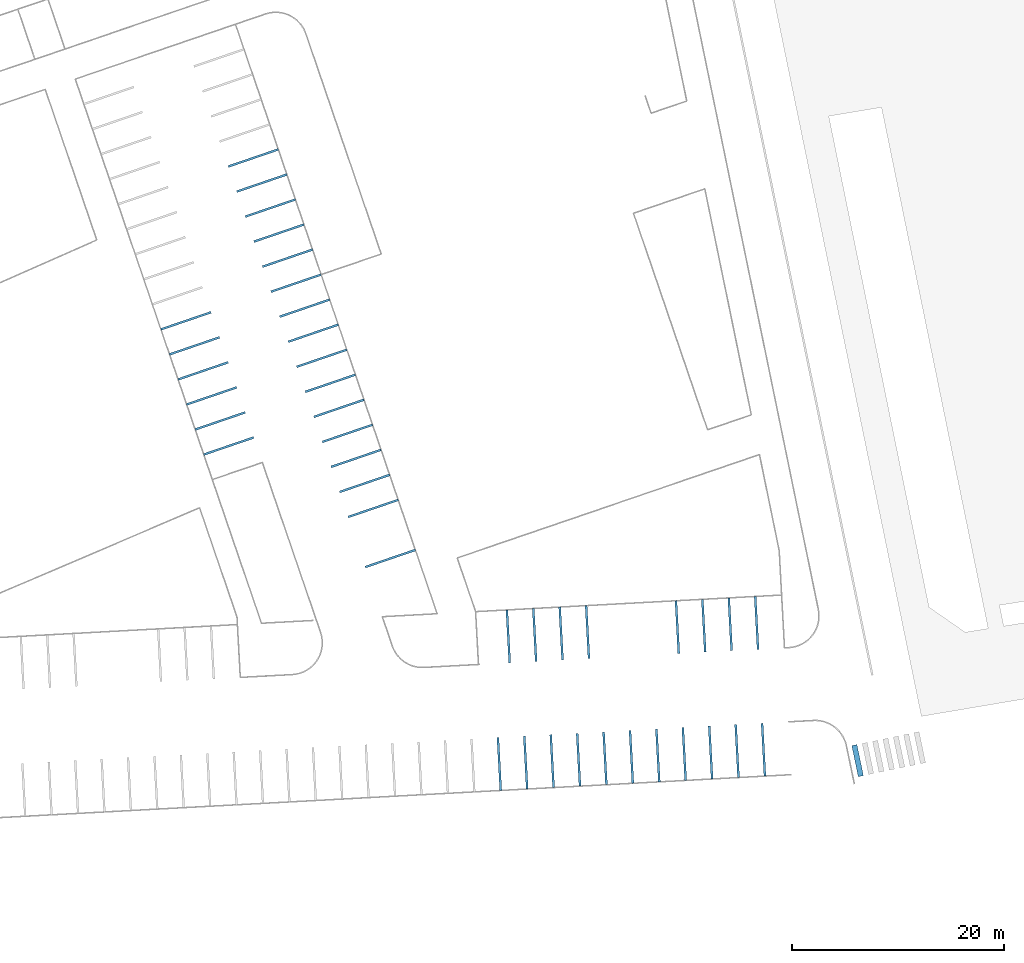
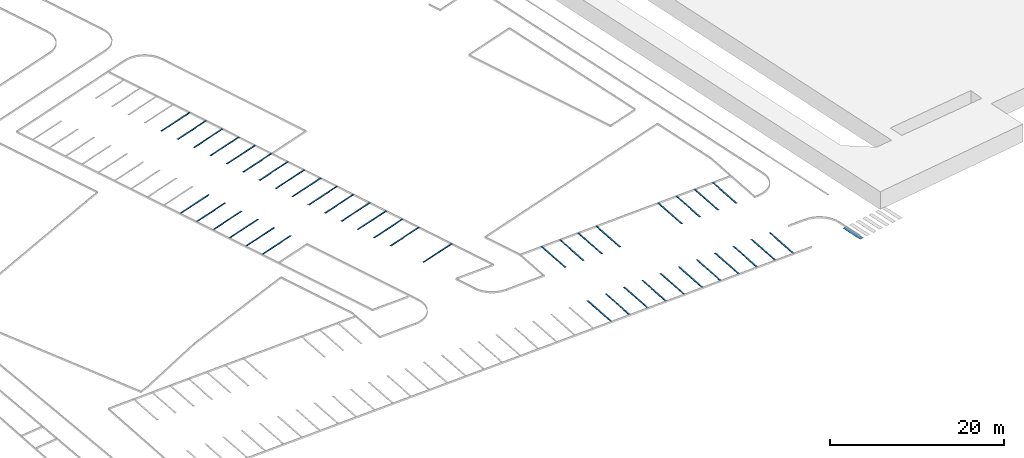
# One storey, part 78 of 112: 42 walls.
"""IFC2X3 building model written with IfcOpenShell, lengths in millimetres."""

from ifc_helpers import new_model, entity, si_unit, converted_unit, derived_unit, direction, frame, frame_2d, origin, origin_2d_with_axis, place, context, subcontext, project, spatial, rectangle, extrude, material, type_object, element, save


model = new_model("IFC2X3")

# Units and contexts
model_context = context("Model", 3, precision=0.01, world=origin(), true_north=direction((6.123031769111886e-17, 1.0)))
body_context = subcontext(model_context, "Body", "Model", "MODEL_VIEW")
ifc_project = project(units=[si_unit("LENGTHUNIT", "METRE", prefix="MILLI"), si_unit("AREAUNIT", "SQUARE_METRE"), si_unit("VOLUMEUNIT", "CUBIC_METRE"), converted_unit("PLANEANGLEUNIT", "DEGREE", entity("IfcRatioMeasure", 0.017453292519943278), si_unit("PLANEANGLEUNIT", "RADIAN"), dimensions=[0, 0, 0, 0, 0, 0, 0]), si_unit("MASSUNIT", "GRAM", prefix="KILO"), derived_unit("MASSDENSITYUNIT", [(si_unit("MASSUNIT", "GRAM", prefix="KILO"), 1), (si_unit("LENGTHUNIT", "METRE"), -3)]), derived_unit("MOMENTOFINERTIAUNIT", [(si_unit("LENGTHUNIT", "METRE"), 4)]), si_unit("TIMEUNIT", "SECOND"), si_unit("FREQUENCYUNIT", "HERTZ"), si_unit("THERMODYNAMICTEMPERATUREUNIT", "DEGREE_CELSIUS"), derived_unit("THERMALTRANSMITTANCEUNIT", [(si_unit("MASSUNIT", "GRAM", prefix="KILO"), 1), (si_unit("THERMODYNAMICTEMPERATUREUNIT", "KELVIN"), -1), (si_unit("TIMEUNIT", "SECOND"), -3)]), derived_unit("THERMALCONDUCTANCEUNIT", [(si_unit("MASSUNIT", "GRAM", prefix="KILO"), 1), (si_unit("LENGTHUNIT", "METRE"), 1), (si_unit("THERMODYNAMICTEMPERATUREUNIT", "KELVIN"), -1), (si_unit("TIMEUNIT", "SECOND"), -3)]), derived_unit("VOLUMETRICFLOWRATEUNIT", [(si_unit("LENGTHUNIT", "METRE"), 3), (si_unit("TIMEUNIT", "SECOND"), -1)]), derived_unit("MASSFLOWRATEUNIT", [(si_unit("MASSUNIT", "GRAM", prefix="KILO"), 1), (si_unit("TIMEUNIT", "SECOND"), -1)]), derived_unit("ROTATIONALFREQUENCYUNIT", [(si_unit("TIMEUNIT", "SECOND"), -1)]), si_unit("ELECTRICCURRENTUNIT", "AMPERE"), si_unit("ELECTRICVOLTAGEUNIT", "VOLT"), si_unit("POWERUNIT", "WATT"), converted_unit("FORCEUNIT", "KIP", entity("IfcRatioMeasure", 2.088543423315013e-05), si_unit("FORCEUNIT", "NEWTON"), dimensions=[1, 1, -2, 0, 0, 0, 0]), si_unit("ILLUMINANCEUNIT", "LUX"), si_unit("LUMINOUSFLUXUNIT", "LUMEN"), si_unit("LUMINOUSINTENSITYUNIT", "CANDELA"), derived_unit("USERDEFINED", [(si_unit("MASSUNIT", "GRAM", prefix="KILO"), -1), (si_unit("LENGTHUNIT", "METRE"), -2), (si_unit("TIMEUNIT", "SECOND"), 3), (si_unit("LUMINOUSFLUXUNIT", "LUMEN"), 1)]), derived_unit("USERDEFINED", [(si_unit("MASSUNIT", "GRAM", prefix="KILO"), 1), (si_unit("LENGTHUNIT", "METRE"), 3), (si_unit("TIMEUNIT", "SECOND"), -3), (si_unit("ELECTRICCURRENTUNIT", "AMPERE"), -2)]), derived_unit("USERDEFINED", [(si_unit("LENGTHUNIT", "METRE"), 2), (si_unit("TIMEUNIT", "SECOND"), -2)]), derived_unit("SOUNDPOWERUNIT", [(si_unit("MASSUNIT", "GRAM", prefix="KILO"), 1), (si_unit("LENGTHUNIT", "METRE"), 2), (si_unit("TIMEUNIT", "SECOND"), -3)]), derived_unit("SOUNDPRESSUREUNIT", [(si_unit("MASSUNIT", "GRAM", prefix="KILO"), 1), (si_unit("LENGTHUNIT", "METRE"), -1), (si_unit("TIMEUNIT", "SECOND"), -2)]), derived_unit("LINEARVELOCITYUNIT", [(si_unit("LENGTHUNIT", "METRE"), 1), (si_unit("TIMEUNIT", "SECOND"), -1)]), si_unit("PRESSUREUNIT", "PASCAL"), derived_unit("USERDEFINED", [(si_unit("LENGTHUNIT", "METRE"), -2), (si_unit("MASSUNIT", "GRAM", prefix="KILO"), 1), (si_unit("TIMEUNIT", "SECOND"), -2)]), derived_unit("LINEARFORCEUNIT", [(si_unit("MASSUNIT", "GRAM", prefix="KILO"), 1), (si_unit("LENGTHUNIT", "METRE"), 1), (si_unit("TIMEUNIT", "SECOND"), -2), (si_unit("LENGTHUNIT", "METRE"), -1)]), derived_unit("PLANARFORCEUNIT", [(si_unit("MASSUNIT", "GRAM", prefix="KILO"), 1), (si_unit("LENGTHUNIT", "METRE"), 1), (si_unit("TIMEUNIT", "SECOND"), -2), (si_unit("LENGTHUNIT", "METRE"), -2)]), derived_unit("SPECIFICHEATCAPACITYUNIT", [(si_unit("LENGTHUNIT", "METRE"), 2), (si_unit("TIMEUNIT", "SECOND"), -2), (si_unit("THERMODYNAMICTEMPERATUREUNIT", "KELVIN"), -1)]), derived_unit("VAPORPERMEABILITYUNIT", [(si_unit("TIMEUNIT", "SECOND"), 1), (si_unit("LENGTHUNIT", "METRE"), -1)]), derived_unit("DYNAMICVISCOSITYUNIT", [(si_unit("MASSUNIT", "GRAM", prefix="KILO"), 1), (si_unit("LENGTHUNIT", "METRE"), -1), (si_unit("TIMEUNIT", "SECOND"), -1)]), derived_unit("THERMALEXPANSIONCOEFFICIENTUNIT", [(si_unit("THERMODYNAMICTEMPERATUREUNIT", "KELVIN"), -1)])], contexts=[model_context])

# Site, building, storey
site_placement = place(None, frame((0.0, 0.0, 0.0), z_axis=(0.0, 0.0, 1.0), x_axis=(0.8191520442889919, 0.5735764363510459, 0.0)))
site = spatial("IfcSite", under=ifc_project, at=site_placement, Name="Default", CompositionType="ELEMENT")
building_placement = place(site_placement, origin())
building = spatial("IfcBuilding", under=site, at=building_placement, CompositionType="ELEMENT")
storey_placement = place(building_placement, frame((0.0, 0.0, -3600.0)))
storey = spatial("IfcBuildingStorey", under=building, at=storey_placement, Name="0.UG -3.60", CompositionType="ELEMENT", Elevation=-3600.0000000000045)

# Walls
ifc_material = material(Name="road_markirovka")
wall_type_1 = type_object("IfcWallType", Name="04", PredefinedType="NOTDEFINED", material=ifc_material)
wall_1_placement = place(storey_placement, frame((33876.23007866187, 70375.10376303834, 2050.0)))
element("IfcWall", 1, at=wall_1_placement, inside=storey, type_object=wall_type_1, material=ifc_material, Name="04 205012:04 205012", ObjectType="04 205012:04 205012", context=body_context, shape_type="SweptSolid", body=[
    extrude(rectangle(XDim=200.00000000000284, YDim=5000.000000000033, at=frame_2d((-5.400124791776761e-13, 2.2737367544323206e-12), x_axis=(1.0, 0.0))), frame((2429.579896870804, 789.7597848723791, 0.0), z_axis=(0.0, 0.0, 1.0), x_axis=(0.2774745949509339, 0.9607329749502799, 0.0)), (0.0, 0.0, 1.0), 9.999999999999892),
])
wall_type_2 = type_object("IfcWallType", Name="04", PredefinedType="NOTDEFINED", material=ifc_material)
wall_2_placement = place(storey_placement, frame((34569.91656603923, 72776.93620041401, 2050.0)))
element("IfcWall", 2, at=wall_2_placement, inside=storey, type_object=wall_type_2, material=ifc_material, Name="04 205013:04 205013", ObjectType="04 205013:04 205013", context=body_context, shape_type="SweptSolid", body=[
    extrude(rectangle(XDim=200.0000000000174, YDim=5000.000000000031, at=frame_2d((-1.1979750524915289e-11, -5.6843418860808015e-12), x_axis=(1.0, 0.0))), frame((2429.5798968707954, 789.7597848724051, 0.0), z_axis=(0.0, 0.0, 1.0), x_axis=(0.27747459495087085, 0.9607329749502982, 0.0)), (0.0, 0.0, 1.0), 9.999999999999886),
])
wall_type_3 = type_object("IfcWallType", Name="04", PredefinedType="NOTDEFINED", material=ifc_material)
wall_3_placement = place(storey_placement, frame((33182.54359128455, 67973.27132566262, 2050.0)))
element("IfcWall", 3, at=wall_3_placement, inside=storey, type_object=wall_type_3, material=ifc_material, Name="04 205016:04 205016", ObjectType="04 205016:04 205016", context=body_context, shape_type="SweptSolid", body=[
    extrude(rectangle(XDim=200.0000000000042, YDim=5000.000000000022, at=frame_2d((-6.039613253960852e-13, 2.2737367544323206e-12), x_axis=(1.0, 0.0))), frame((2429.5798968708, 789.7597848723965, 0.0), z_axis=(0.0, 0.0, 1.0), x_axis=(0.2774745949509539, 0.9607329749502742, 0.0)), (0.0, 0.0, 1.0), 9.999999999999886),
])
wall_type_4 = type_object("IfcWallType", Name="04", PredefinedType="NOTDEFINED", material=ifc_material)
wall_4_placement = place(storey_placement, frame((31795.170616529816, 63169.60645091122, 2050.0)))
element("IfcWall", 4, at=wall_4_placement, inside=storey, type_object=wall_type_4, material=ifc_material, Name="04 205018:04 205018", ObjectType="04 205018:04 205018", context=body_context, shape_type="SweptSolid", body=[
    extrude(rectangle(XDim=200.00000000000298, YDim=5000.000000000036, at=frame_2d((-4.128253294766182e-12, -1.3642420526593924e-12), x_axis=(1.0, 0.0))), frame((2429.5798968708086, 789.7597848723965, 0.0), z_axis=(0.0, 0.0, 1.0), x_axis=(0.2774745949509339, 0.9607329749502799, 0.0)), (0.0, 0.0, 1.0), 9.999999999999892),
])
wall_type_5 = type_object("IfcWallType", Name="04", PredefinedType="NOTDEFINED", material=ifc_material)
wall_5_placement = place(storey_placement, frame((31101.484129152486, 60767.77401353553, 2050.0)))
element("IfcWall", 5, at=wall_5_placement, inside=storey, type_object=wall_type_5, material=ifc_material, Name="04 205019:04 205019", ObjectType="04 205019:04 205019", context=body_context, shape_type="SweptSolid", body=[
    extrude(rectangle(XDim=200.0000000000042, YDim=5000.000000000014, at=frame_2d((6.110667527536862e-13, -1.8189894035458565e-12), x_axis=(1.0, 0.0))), frame((2429.5798968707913, 789.7597848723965, 0.0), z_axis=(0.0, 0.0, 1.0), x_axis=(0.2774745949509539, 0.9607329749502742, 0.0)), (0.0, 0.0, 1.0), 9.999999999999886),
])
wall_type_6 = type_object("IfcWallType", Name="04", PredefinedType="NOTDEFINED", material=ifc_material)
wall_6_placement = place(storey_placement, frame((30407.797641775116, 58365.94157615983, 2050.0)))
element("IfcWall", 6, at=wall_6_placement, inside=storey, type_object=wall_type_6, material=ifc_material, Name="04 205022:04 205022", ObjectType="04 205022:04 205022", context=body_context, shape_type="SweptSolid", body=[
    extrude(rectangle(XDim=200.00000000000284, YDim=5000.000000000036, at=frame_2d((-3.517186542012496e-12, -3.183231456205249e-12), x_axis=(1.0, 0.0))), frame((2429.5798968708, 789.7597848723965, 0.0), z_axis=(0.0, 0.0, 1.0), x_axis=(0.2774745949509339, 0.9607329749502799, 0.0)), (0.0, 0.0, 1.0), 9.999999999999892),
])
wall_type_7 = type_object("IfcWallType", Name="04", PredefinedType="NOTDEFINED", material=ifc_material)
wall_7_placement = place(storey_placement, frame((32488.85710390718, 65571.43888828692, 2050.0)))
element("IfcWall", 7, at=wall_7_placement, inside=storey, type_object=wall_type_7, material=ifc_material, Name="04 205024:04 205024", ObjectType="04 205024:04 205024", context=body_context, shape_type="SweptSolid", body=[
    extrude(rectangle(XDim=199.99999999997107, YDim=5000.000000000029, at=frame_2d((-1.8260948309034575e-12, 6.139089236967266e-12), x_axis=(1.0, 0.0))), frame((2429.5798968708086, 789.7597848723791, 0.0), z_axis=(0.0, 0.0, 1.0), x_axis=(0.27747459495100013, 0.9607329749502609, 0.0)), (0.0, 0.0, 1.0), 9.999999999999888),
])
wall_type_8 = type_object("IfcWallType", Name="04", PredefinedType="NOTDEFINED", material=ifc_material)
wall_8_placement = place(storey_placement, frame((28326.73817964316, 51160.444264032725, 2050.0)))
element("IfcWall", 8, at=wall_8_placement, inside=storey, type_object=wall_type_8, material=ifc_material, Name="04 205025:04 205025", ObjectType="04 205025:04 205025", context=body_context, shape_type="SweptSolid", body=[
    extrude(rectangle(XDim=200.00000000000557, YDim=5000.00000000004, at=frame_2d((-6.110667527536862e-13, 2.0463630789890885e-12), x_axis=(1.0, 0.0))), frame((2429.5798968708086, 789.7597848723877, 0.0), z_axis=(0.0, 0.0, 1.0), x_axis=(0.27747459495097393, 0.9607329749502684, 0.0)), (0.0, 0.0, 1.0), 9.999999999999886),
])
wall_type_9 = type_object("IfcWallType", Name="04", PredefinedType="NOTDEFINED", material=ifc_material)
wall_9_placement = place(storey_placement, frame((29714.11115439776, 55964.109138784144, 2050.0)))
element("IfcWall", 9, at=wall_9_placement, inside=storey, type_object=wall_type_9, material=ifc_material, Name="04 205028:04 205028", ObjectType="04 205028:04 205028", context=body_context, shape_type="SweptSolid", body=[
    extrude(rectangle(XDim=200.00000000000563, YDim=5000.00000000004, at=frame_2d((-4.810374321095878e-12, 9.094947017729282e-13), x_axis=(1.0, 0.0))), frame((2429.5798968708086, 789.7597848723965, 0.0), z_axis=(0.0, 0.0, 1.0), x_axis=(0.27747459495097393, 0.9607329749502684, 0.0)), (0.0, 0.0, 1.0), 9.999999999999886),
])
wall_type_10 = type_object("IfcWallType", Name="04", PredefinedType="NOTDEFINED", material=ifc_material)
wall_10_placement = place(storey_placement, frame((38732.03549030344, 87187.93082466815, 2050.0)))
element("IfcWall", 10, at=wall_10_placement, inside=storey, type_object=wall_type_10, material=ifc_material, Name="04 205035:04 205035", ObjectType="04 205035:04 205035", context=body_context, shape_type="SweptSolid", body=[
    extrude(rectangle(XDim=199.99999999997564, YDim=5000.0000000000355, at=frame_2d((8.327560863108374e-12, 2.0463630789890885e-12), x_axis=(1.0, 0.0))), frame((2429.579896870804, 789.7597848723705, 0.0), z_axis=(0.0, 0.0, 1.0), x_axis=(0.2774745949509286, 0.9607329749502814, 0.0)), (0.0, 0.0, 1.0), 9.999999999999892),
])
wall_type_11 = type_object("IfcWallType", Name="04", PredefinedType="NOTDEFINED", material=ifc_material)
wall_11_placement = place(storey_placement, frame((39425.7219776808, 89589.76326204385, 2050.0)))
element("IfcWall", 11, at=wall_11_placement, inside=storey, type_object=wall_type_11, material=ifc_material, Name="04 205037:04 205037", ObjectType="04 205037:04 205037", context=body_context, shape_type="SweptSolid", body=[
    extrude(rectangle(XDim=199.99999999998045, YDim=5000.000000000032, at=frame_2d((1.5425882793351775e-11, 8.86757334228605e-12), x_axis=(1.0, 0.0))), frame((2429.5798968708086, 789.7597848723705, 0.0), z_axis=(0.0, 0.0, 1.0), x_axis=(0.27747459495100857, 0.9607329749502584, 0.0)), (0.0, 0.0, 1.0), 9.999999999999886),
])
wall_type_12 = type_object("IfcWallType", Name="04", PredefinedType="NOTDEFINED", material=ifc_material)
wall_12_placement = place(storey_placement, frame((38038.3490029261, 84786.09838729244, 2050.0)))
element("IfcWall", 12, at=wall_12_placement, inside=storey, type_object=wall_type_12, material=ifc_material, Name="04 205039:04 205039", ObjectType="04 205039:04 205039", context=body_context, shape_type="SweptSolid", body=[
    extrude(rectangle(XDim=199.99999999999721, YDim=5000.000000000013, at=frame_2d((1.1510792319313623e-12, -4.547473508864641e-12), x_axis=(1.0, 0.0))), frame((2429.579896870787, 789.7597848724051, 0.0), z_axis=(0.0, 0.0, 1.0), x_axis=(0.2774745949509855, 0.9607329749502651, 0.0)), (0.0, 0.0, 1.0), 9.999999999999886),
])
wall_type_13 = type_object("IfcWallType", Name="04", PredefinedType="NOTDEFINED", material=ifc_material)
wall_13_placement = place(storey_placement, frame((37344.66251554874, 82384.26594991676, 2050.0)))
element("IfcWall", 13, at=wall_13_placement, inside=storey, type_object=wall_type_13, material=ifc_material, Name="04 205042:04 205042", ObjectType="04 205042:04 205042", context=body_context, shape_type="SweptSolid", body=[
    extrude(rectangle(XDim=199.99999999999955, YDim=5000.000000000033, at=frame_2d((-1.0757617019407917e-11, 5.9117155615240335e-12), x_axis=(1.0, 0.0))), frame((2429.5798968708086, 789.7597848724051, 0.0), z_axis=(0.0, 0.0, 1.0), x_axis=(0.2774745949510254, 0.9607329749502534, 0.0)), (0.0, 0.0, 1.0), 9.999999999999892),
])
wall_type_14 = type_object("IfcWallType", Name="04", PredefinedType="NOTDEFINED", material=ifc_material)
wall_14_placement = place(storey_placement, frame((36650.97602817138, 79982.43351254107, 2050.0)))
element("IfcWall", 14, at=wall_14_placement, inside=storey, type_object=wall_type_14, material=ifc_material, Name="04 205043:04 205043", ObjectType="04 205043:04 205043", context=body_context, shape_type="SweptSolid", body=[
    extrude(rectangle(XDim=199.99999999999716, YDim=5000.00000000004, at=frame_2d((-1.8260948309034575e-12, 6.139089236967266e-12), x_axis=(1.0, 0.0))), frame((2429.5798968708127, 789.7597848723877, 0.0), z_axis=(0.0, 0.0, 1.0), x_axis=(0.2774745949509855, 0.9607329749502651, 0.0)), (0.0, 0.0, 1.0), 9.999999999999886),
])
wall_type_15 = type_object("IfcWallType", Name="04", PredefinedType="NOTDEFINED", material=ifc_material)
wall_15_placement = place(storey_placement, frame((35957.28954079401, 77580.60107516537, 2050.0)))
element("IfcWall", 15, at=wall_15_placement, inside=storey, type_object=wall_type_15, material=ifc_material, Name="04 205045:04 205045", ObjectType="04 205045:04 205045", context=body_context, shape_type="SweptSolid", body=[
    extrude(rectangle(XDim=199.9999999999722, YDim=5000.000000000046, at=frame_2d((2.077626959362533e-11, 5.9117155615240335e-12), x_axis=(1.0, 0.0))), frame((2429.5798968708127, 789.7597848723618, 0.0), z_axis=(0.0, 0.0, 1.0), x_axis=(0.2774745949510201, 0.9607329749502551, 0.0)), (0.0, 0.0, 1.0), 9.999999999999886),
])
wall_type_16 = type_object("IfcWallType", Name="04", PredefinedType="NOTDEFINED", material=ifc_material)
wall_16_placement = place(storey_placement, frame((24695.540328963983, 78230.98918224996, 2050.0)))
element("IfcWall", 16, at=wall_16_placement, inside=storey, type_object=wall_type_16, material=ifc_material, Name="04 205048:04 205048", ObjectType="04 205048:04 205048", context=body_context, shape_type="SweptSolid", body=[
    extrude(rectangle(XDim=199.99999999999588, YDim=5000.000000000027, at=frame_2d((7.716494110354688e-12, 4.547473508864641e-12), x_axis=(1.0, 0.0))), frame((2429.5798968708, 789.7597848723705, 0.0), z_axis=(0.0, 0.0, 1.0), x_axis=(0.27747459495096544, 0.9607329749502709, 0.0)), (0.0, 0.0, 1.0), 9.999999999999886),
])
wall_type_17 = type_object("IfcWallType", Name="04", PredefinedType="NOTDEFINED", material=ifc_material)
wall_17_placement = place(storey_placement, frame((35263.60305341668, 75178.76863778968, 2050.0)))
element("IfcWall", 17, at=wall_17_placement, inside=storey, type_object=wall_type_17, material=ifc_material, Name="04 205049:04 205049", ObjectType="04 205049:04 205049", context=body_context, shape_type="SweptSolid", body=[
    extrude(rectangle(XDim=199.9999999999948, YDim=5000.000000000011, at=frame_2d((4.199307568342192e-12, 1.1368683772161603e-12), x_axis=(1.0, 0.0))), frame((2429.5798968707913, 789.7597848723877, 0.0), z_axis=(0.0, 0.0, 1.0), x_axis=(0.2774745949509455, 0.9607329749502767, 0.0)), (0.0, 0.0, 1.0), 9.999999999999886),
])
wall_type_18 = type_object("IfcWallType", Name="04", PredefinedType="NOTDEFINED", material=ifc_material)
wall_18_placement = place(storey_placement, frame((23308.167354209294, 73427.32430749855, 2050.0)))
element("IfcWall", 18, at=wall_18_placement, inside=storey, type_object=wall_type_18, material=ifc_material, Name="04 205050:04 205050", ObjectType="04 205050:04 205050", context=body_context, shape_type="SweptSolid", body=[
    extrude(rectangle(XDim=199.99999999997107, YDim=5000.000000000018, at=origin_2d_with_axis()), frame((2429.5798968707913, 789.7597848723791, 0.0), z_axis=(0.0, 0.0, 1.0), x_axis=(0.27747459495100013, 0.9607329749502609, 0.0)), (0.0, 0.0, 1.0), 9.999999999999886),
])
wall_type_19 = type_object("IfcWallType", Name="04", PredefinedType="NOTDEFINED", material=ifc_material)
wall_19_placement = place(storey_placement, frame((22614.48086683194, 71025.49187012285, 2050.0)))
element("IfcWall", 19, at=wall_19_placement, inside=storey, type_object=wall_type_19, material=ifc_material, Name="04 205053:04 205053", ObjectType="04 205053:04 205053", context=body_context, shape_type="SweptSolid", body=[
    extrude(rectangle(XDim=199.99999999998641, YDim=5000.0000000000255, at=frame_2d((-7.716494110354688e-12, -4.320099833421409e-12), x_axis=(1.0, 0.0))), frame((2429.5798968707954, 789.7597848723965, 0.0), z_axis=(0.0, 0.0, 1.0), x_axis=(0.277474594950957, 0.9607329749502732, 0.0)), (0.0, 0.0, 1.0), 9.999999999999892),
])
wall_type_20 = type_object("IfcWallType", Name="04", PredefinedType="NOTDEFINED", material=ifc_material)
wall_20_placement = place(storey_placement, frame((21920.794379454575, 68623.65943274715, 2050.0)))
element("IfcWall", 20, at=wall_20_placement, inside=storey, type_object=wall_type_20, material=ifc_material, Name="04 205055:04 205055", ObjectType="04 205055:04 205055", context=body_context, shape_type="SweptSolid", body=[
    extrude(rectangle(XDim=199.99999999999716, YDim=5000.000000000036, at=frame_2d((3.524291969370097e-12, 3.183231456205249e-12), x_axis=(1.0, 0.0))), frame((2429.5798968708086, 789.7597848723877, 0.0), z_axis=(0.0, 0.0, 1.0), x_axis=(0.2774745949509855, 0.9607329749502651, 0.0)), (0.0, 0.0, 1.0), 9.999999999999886),
])
wall_type_21 = type_object("IfcWallType", Name="04", PredefinedType="NOTDEFINED", material=ifc_material)
wall_21_placement = place(storey_placement, frame((24001.85384158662, 75829.15674487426, 2050.0)))
element("IfcWall", 21, at=wall_21_placement, inside=storey, type_object=wall_type_21, material=ifc_material, Name="04 205058:04 205058", ObjectType="04 205058:04 205058", context=body_context, shape_type="SweptSolid", body=[
    extrude(rectangle(XDim=199.99999999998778, YDim=5000.0000000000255, at=frame_2d((-1.2221335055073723e-12, 4.320099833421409e-12), x_axis=(1.0, 0.0))), frame((2429.579896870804, 789.7597848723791, 0.0), z_axis=(0.0, 0.0, 1.0), x_axis=(0.277474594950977, 0.9607329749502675, 0.0)), (0.0, 0.0, 1.0), 9.999999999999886),
])
wall_type_22 = type_object("IfcWallType", Name="04", PredefinedType="NOTDEFINED", material=ifc_material)
wall_22_placement = place(storey_placement, frame((25389.22681634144, 80632.82161962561, 2050.0)))
element("IfcWall", 22, at=wall_22_placement, inside=storey, type_object=wall_type_22, material=ifc_material, Name="04 205090:04 205090", ObjectType="04 205090:04 205090", context=body_context, shape_type="SweptSolid", body=[
    extrude(rectangle(XDim=199.99999999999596, YDim=5000.000000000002, at=frame_2d((-7.645439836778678e-12, -4.547473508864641e-12), x_axis=(1.0, 0.0))), frame((2429.5798968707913, 789.7597848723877, 0.0), z_axis=(0.0, 0.0, 1.0), x_axis=(0.27747459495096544, 0.9607329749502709, 0.0)), (0.0, 0.0, 1.0), 9.999999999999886),
])
wall_type_23 = type_object("IfcWallType", Name="04", PredefinedType="NOTDEFINED", material=ifc_material)
wall_23_placement = place(storey_placement, frame((40631.423388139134, 33392.00238677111, 2050.0), z_axis=(0.0, 0.0, 1.0), x_axis=(0.0, 1.0, 0.0)))
element("IfcWall", 23, at=wall_23_placement, inside=storey, type_object=wall_type_23, material=ifc_material, Name="04 205091:04 205091", ObjectType="04 205091:04 205091", context=body_context, shape_type="SweptSolid", body=[
    extrude(rectangle(XDim=199.9999999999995, YDim=4999.99998200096, at=frame_2d((-2.3021584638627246e-12, 3.410605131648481e-12), x_axis=(1.0, 0.0))), frame((2175.433801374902, -1405.723827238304, 0.0), z_axis=(0.0, 0.0, 1.0), x_axis=(0.5283279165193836, 0.849040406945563, 0.0)), (0.0, 0.0, 1.0), 9.999999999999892),
])
wall_type_24 = type_object("IfcWallType", Name="04", PredefinedType="NOTDEFINED", material=ifc_material)
wall_24_placement = place(storey_placement, frame((38508.82237077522, 34712.822178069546, 2050.0), z_axis=(0.0, 0.0, 1.0), x_axis=(0.0, 1.0, 0.0)))
element("IfcWall", 24, at=wall_24_placement, inside=storey, type_object=wall_type_24, material=ifc_material, Name="04 205097:04 205097", ObjectType="04 205097:04 205097", context=body_context, shape_type="SweptSolid", body=[
    extrude(rectangle(XDim=200.00000000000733, YDim=4999.999982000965, at=frame_2d((2.2382096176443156e-12, -3.865352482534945e-12), x_axis=(1.0, 0.0))), frame((2175.433801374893, -1405.7238272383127, 0.0), z_axis=(0.0, 0.0, 1.0), x_axis=(0.5283279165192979, 0.8490404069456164, 0.0)), (0.0, 0.0, 1.0), 9.999999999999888),
])
wall_type_25 = type_object("IfcWallType", Name="04", PredefinedType="NOTDEFINED", material=ifc_material)
wall_25_placement = place(storey_placement, frame((47848.266844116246, 28901.215091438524, 2050.0), z_axis=(0.0, 0.0, 1.0), x_axis=(0.0, 1.0, 0.0)))
element("IfcWall", 25, at=wall_25_placement, inside=storey, type_object=wall_type_25, material=ifc_material, Name="04 205098:04 205098", ObjectType="04 205098:04 205098", context=body_context, shape_type="SweptSolid", body=[
    extrude(rectangle(XDim=200.00000000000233, YDim=4999.9999877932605, at=frame_2d((-7.37543359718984e-12, -4.774847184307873e-12), x_axis=(1.0, 0.0))), frame((2175.433803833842, -1405.7238287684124, 0.0), z_axis=(0.0, 0.0, 1.0), x_axis=(0.528327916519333, 0.8490404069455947, 0.0)), (0.0, 0.0, 1.0), 9.999999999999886),
])
wall_type_26 = type_object("IfcWallType", Name="04", PredefinedType="NOTDEFINED", material=ifc_material)
wall_26_placement = place(storey_placement, frame((49970.86786148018, 27580.395300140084, 2050.0), z_axis=(0.0, 0.0, 1.0), x_axis=(0.0, 1.0, 0.0)))
element("IfcWall", 26, at=wall_26_placement, inside=storey, type_object=wall_type_26, material=ifc_material, Name="04 205101:04 205101", ObjectType="04 205101:04 205101", context=body_context, shape_type="SweptSolid", body=[
    extrude(rectangle(XDim=199.9999999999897, YDim=4999.999987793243, at=frame_2d((2.5082158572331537e-12, 3.865352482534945e-12), x_axis=(1.0, 0.0))), frame((2175.433803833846, -1405.7238287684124, 0.0), z_axis=(0.0, 0.0, 1.0), x_axis=(0.5283279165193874, 0.8490404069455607, 0.0)), (0.0, 0.0, 1.0), 9.999999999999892),
])
wall_type_27 = type_object("IfcWallType", Name="04", PredefinedType="NOTDEFINED", material=ifc_material)
wall_27_placement = place(storey_placement, frame((52093.46887884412, 26259.575508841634, 2050.0), z_axis=(0.0, 0.0, 1.0), x_axis=(0.0, 1.0, 0.0)))
element("IfcWall", 27, at=wall_27_placement, inside=storey, type_object=wall_type_27, material=ifc_material, Name="04 205106:04 205106", ObjectType="04 205106:04 205106", context=body_context, shape_type="SweptSolid", body=[
    extrude(rectangle(XDim=199.9999999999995, YDim=4999.999987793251, at=frame_2d((-4.810374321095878e-12, -4.547473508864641e-13), x_axis=(1.0, 0.0))), frame((2175.433803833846, -1405.7238287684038, 0.0), z_axis=(0.0, 0.0, 1.0), x_axis=(0.5283279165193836, 0.849040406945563, 0.0)), (0.0, 0.0, 1.0), 9.99999999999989),
])
wall_type_28 = type_object("IfcWallType", Name="04", PredefinedType="NOTDEFINED", material=ifc_material)
wall_28_placement = place(storey_placement, frame((54216.06989620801, 24938.75571754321, 2050.0), z_axis=(0.0, 0.0, 1.0), x_axis=(0.0, 1.0, 0.0)))
element("IfcWall", 28, at=wall_28_placement, inside=storey, type_object=wall_type_28, material=ifc_material, Name="04 205108:04 205108", ObjectType="04 205108:04 205108", context=body_context, shape_type="SweptSolid", body=[
    extrude(rectangle(XDim=199.99999999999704, YDim=4999.9999877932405, at=frame_2d((1.4850343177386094e-12, 6.139089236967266e-12), x_axis=(1.0, 0.0))), frame((2175.433803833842, -1405.7238287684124, 0.0), z_axis=(0.0, 0.0, 1.0), x_axis=(0.5283279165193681, 0.8490404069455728, 0.0)), (0.0, 0.0, 1.0), 9.999999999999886),
])
wall_type_29 = type_object("IfcWallType", Name="04", PredefinedType="NOTDEFINED", material=ifc_material)
wall_29_placement = place(storey_placement, frame((34263.62033604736, 37354.461760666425, 2050.0), z_axis=(0.0, 0.0, 1.0), x_axis=(0.0, 1.0, 0.0)))
element("IfcWall", 29, at=wall_29_placement, inside=storey, type_object=wall_type_29, material=ifc_material, Name="04 205109:04 205109", ObjectType="04 205109:04 205109", context=body_context, shape_type="SweptSolid", body=[
    extrude(rectangle(XDim=199.99999999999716, YDim=4999.999982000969, at=frame_2d((3.723243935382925e-12, 2.2737367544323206e-12), x_axis=(1.0, 0.0))), frame((2175.433801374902, -1405.7238272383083, 0.0), z_axis=(0.0, 0.0, 1.0), x_axis=(0.5283279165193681, 0.8490404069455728, 0.0)), (0.0, 0.0, 1.0), 9.999999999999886),
])
wall_type_30 = type_object("IfcWallType", Name="04", PredefinedType="NOTDEFINED", material=ifc_material)
wall_30_placement = place(storey_placement, frame((36386.221353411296, 36033.64196936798, 2050.0), z_axis=(0.0, 0.0, 1.0), x_axis=(0.0, 1.0, 0.0)))
element("IfcWall", 30, at=wall_30_placement, inside=storey, type_object=wall_type_30, material=ifc_material, Name="04 205112:04 205112", ObjectType="04 205112:04 205112", context=body_context, shape_type="SweptSolid", body=[
    extrude(rectangle(XDim=199.9999999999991, YDim=4999.9999820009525, at=frame_2d((-2.3021584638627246e-12, 3.865352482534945e-12), x_axis=(1.0, 0.0))), frame((2175.433801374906, -1405.7238272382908, 0.0), z_axis=(0.0, 0.0, 1.0), x_axis=(0.5283279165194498, 0.8490404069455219, 0.0)), (0.0, 0.0, 1.0), 9.999999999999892),
])
wall_type_31 = type_object("IfcWallType", Name="04", PredefinedType="NOTDEFINED", material=ifc_material)
wall_31_placement = place(storey_placement, frame((26650.124726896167, 27958.468751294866, 2050.0), z_axis=(0.0, 0.0, 1.0), x_axis=(0.0, 1.0, 0.0)))
element("IfcWall", 31, at=wall_31_placement, inside=storey, type_object=wall_type_31, material=ifc_material, Name="04 206357:04 206357", ObjectType="04 206357:04 206357", context=body_context, shape_type="SweptSolid", body=[
    extrude(rectangle(XDim=200.00000000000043, YDim=5000.0000000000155, at=frame_2d((1.3500311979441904e-12, 6.366462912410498e-12), x_axis=(1.0, 0.0))), frame((2175.4338090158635, -1405.7238319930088, 0.0), z_axis=(0.0, 0.0, 1.0), x_axis=(0.5283279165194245, 0.8490404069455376, 0.0)), (0.0, 0.0, 1.0), 9.999999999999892),
])
wall_type_32 = type_object("IfcWallType", Name="04", PredefinedType="NOTDEFINED", material=ifc_material)
wall_32_placement = place(storey_placement, frame((33017.92777898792, 23996.009377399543, 2050.0), z_axis=(0.0, 0.0, 1.0), x_axis=(0.0, 1.0, 0.0)))
element("IfcWall", 32, at=wall_32_placement, inside=storey, type_object=wall_type_32, material=ifc_material, Name="04 206360:04 206360", ObjectType="04 206360:04 206360", context=body_context, shape_type="SweptSolid", body=[
    extrude(rectangle(XDim=199.99999999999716, YDim=5000.000000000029, at=frame_2d((-2.9771740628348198e-12, 6.821210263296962e-13), x_axis=(1.0, 0.0))), frame((2175.433809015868, -1405.7238319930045, 0.0), z_axis=(0.0, 0.0, 1.0), x_axis=(0.5283279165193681, 0.8490404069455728, 0.0)), (0.0, 0.0, 1.0), 9.999999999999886),
])
wall_type_33 = type_object("IfcWallType", Name="04", PredefinedType="NOTDEFINED", material=ifc_material)
wall_33_placement = place(storey_placement, frame((28772.725744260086, 26637.648959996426, 2050.0), z_axis=(0.0, 0.0, 1.0), x_axis=(0.0, 1.0, 0.0)))
element("IfcWall", 33, at=wall_33_placement, inside=storey, type_object=wall_type_33, material=ifc_material, Name="04 206362:04 206362", ObjectType="04 206362:04 206362", context=body_context, shape_type="SweptSolid", body=[
    extrude(rectangle(XDim=199.99999999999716, YDim=5000.000000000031, at=frame_2d((-6.750155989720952e-13, -2.5011104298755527e-12), x_axis=(1.0, 0.0))), frame((2175.4338090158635, -1405.7238319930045, 0.0), z_axis=(0.0, 0.0, 1.0), x_axis=(0.5283279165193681, 0.8490404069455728, 0.0)), (0.0, 0.0, 1.0), 9.999999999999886),
])
wall_type_34 = type_object("IfcWallType", Name="04", PredefinedType="NOTDEFINED", material=ifc_material)
wall_34_placement = place(storey_placement, frame((30895.326761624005, 25316.829168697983, 2050.0), z_axis=(0.0, 0.0, 1.0), x_axis=(0.0, 1.0, 0.0)))
element("IfcWall", 34, at=wall_34_placement, inside=storey, type_object=wall_type_34, material=ifc_material, Name="04 206363:04 206363", ObjectType="04 206363:04 206363", context=body_context, shape_type="SweptSolid", body=[
    extrude(rectangle(XDim=200.00000000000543, YDim=5000.000000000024, at=frame_2d((-1.1510792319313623e-12, 1.8189894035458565e-12), x_axis=(1.0, 0.0))), frame((2175.4338090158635, -1405.7238319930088, 0.0), z_axis=(0.0, 0.0, 1.0), x_axis=(0.5283279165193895, 0.8490404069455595, 0.0)), (0.0, 0.0, 1.0), 9.999999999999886),
])
wall_type_35 = type_object("IfcWallType", Name="04", PredefinedType="NOTDEFINED", material=ifc_material)
wall_35_placement = place(storey_placement, frame((35140.52879635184, 22675.189586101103, 2050.0), z_axis=(0.0, 0.0, 1.0), x_axis=(0.0, 1.0, 0.0)))
element("IfcWall", 35, at=wall_35_placement, inside=storey, type_object=wall_type_35, material=ifc_material, Name="04 206364:04 206364", ObjectType="04 206364:04 206364", context=body_context, shape_type="SweptSolid", body=[
    extrude(rectangle(XDim=199.99999999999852, YDim=5000.000000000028, at=frame_2d((1.1510792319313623e-12, -1.5916157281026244e-12), x_axis=(1.0, 0.0))), frame((2175.4338090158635, -1405.7238319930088, 0.0), z_axis=(0.0, 0.0, 1.0), x_axis=(0.5283279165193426, 0.8490404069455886, 0.0)), (0.0, 0.0, 1.0), 9.999999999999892),
])
wall_type_36 = type_object("IfcWallType", Name="04", PredefinedType="NOTDEFINED", material=ifc_material)
wall_36_placement = place(storey_placement, frame((41508.331848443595, 18712.73021220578, 2050.0), z_axis=(0.0, 0.0, 1.0), x_axis=(0.0, 1.0, 0.0)))
element("IfcWall", 36, at=wall_36_placement, inside=storey, type_object=wall_type_36, material=ifc_material, Name="04 206368:04 206368", ObjectType="04 206368:04 206368", context=body_context, shape_type="SweptSolid", body=[
    extrude(rectangle(XDim=199.99999999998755, YDim=5000.000000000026, at=frame_2d((1.0153655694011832e-11, 0.0), x_axis=(1.0, 0.0))), frame((2175.4338090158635, -1405.7238319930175, 0.0), z_axis=(0.0, 0.0, 1.0), x_axis=(0.5283279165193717, 0.8490404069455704, 0.0)), (0.0, 0.0, 1.0), 9.999999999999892),
])
wall_type_37 = type_object("IfcWallType", Name="04", PredefinedType="NOTDEFINED", material=ifc_material)
wall_37_placement = place(storey_placement, frame((39385.73083107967, 20033.55000350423, 2050.0), z_axis=(0.0, 0.0, 1.0), x_axis=(0.0, 1.0, 0.0)))
element("IfcWall", 37, at=wall_37_placement, inside=storey, type_object=wall_type_37, material=ifc_material, Name="04 206369:04 206369", ObjectType="04 206369:04 206369", context=body_context, shape_type="SweptSolid", body=[
    extrude(rectangle(XDim=200.00000000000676, YDim=5000.000000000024, at=frame_2d((1.1510792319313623e-12, -1.5916157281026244e-12), x_axis=(1.0, 0.0))), frame((2175.433809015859, -1405.7238319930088, 0.0), z_axis=(0.0, 0.0, 1.0), x_axis=(0.5283279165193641, 0.8490404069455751, 0.0)), (0.0, 0.0, 1.0), 9.999999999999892),
])
wall_type_38 = type_object("IfcWallType", Name="04", PredefinedType="NOTDEFINED", material=ifc_material)
wall_38_placement = place(storey_placement, frame((43630.93286580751, 17391.91042090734, 2050.0), z_axis=(0.0, 0.0, 1.0), x_axis=(0.0, 1.0, 0.0)))
element("IfcWall", 38, at=wall_38_placement, inside=storey, type_object=wall_type_38, material=ifc_material, Name="04 206371:04 206371", ObjectType="04 206371:04 206371", context=body_context, shape_type="SweptSolid", body=[
    extrude(rectangle(XDim=200.00000000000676, YDim=5000.000000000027, at=origin_2d_with_axis()), frame((2175.4338090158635, -1405.7238319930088, 0.0), z_axis=(0.0, 0.0, 1.0), x_axis=(0.5283279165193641, 0.8490404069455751, 0.0)), (0.0, 0.0, 1.0), 9.999999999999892),
])
wall_type_39 = type_object("IfcWallType", Name="04", PredefinedType="NOTDEFINED", material=ifc_material)
wall_39_placement = place(storey_placement, frame((47876.134900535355, 14750.270838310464, 2050.0), z_axis=(0.0, 0.0, 1.0), x_axis=(0.0, 1.0, 0.0)))
element("IfcWall", 39, at=wall_39_placement, inside=storey, type_object=wall_type_39, material=ifc_material, Name="04 206374:04 206374", ObjectType="04 206374:04 206374", context=body_context, shape_type="SweptSolid", body=[
    extrude(rectangle(XDim=199.99999999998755, YDim=5000.000000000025, at=frame_2d((-2.5011104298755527e-12, -4.092726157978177e-12), x_axis=(1.0, 0.0))), frame((2175.433809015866, -1405.7238319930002, 0.0), z_axis=(0.0, 0.0, 1.0), x_axis=(0.5283279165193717, 0.8490404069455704, 0.0)), (0.0, 0.0, 1.0), 9.999999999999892),
])
wall_type_40 = type_object("IfcWallType", Name="04", PredefinedType="NOTDEFINED", material=ifc_material)
wall_40_placement = place(storey_placement, frame((45753.53388317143, 16071.090629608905, 2050.0), z_axis=(0.0, 0.0, 1.0), x_axis=(0.0, 1.0, 0.0)))
element("IfcWall", 40, at=wall_40_placement, inside=storey, type_object=wall_type_40, material=ifc_material, Name="04 206375:04 206375", ObjectType="04 206375:04 206375", context=body_context, shape_type="SweptSolid", body=[
    extrude(rectangle(XDim=199.99999999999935, YDim=5000.000000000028, at=frame_2d((-1.1510792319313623e-12, 1.5916157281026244e-12), x_axis=(1.0, 0.0))), frame((2175.433809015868, -1405.7238319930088, 0.0), z_axis=(0.0, 0.0, 1.0), x_axis=(0.5283279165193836, 0.849040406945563, 0.0)), (0.0, 0.0, 1.0), 9.999999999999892),
])
wall_type_41 = type_object("IfcWallType", Name="04", PredefinedType="NOTDEFINED", material=ifc_material)
wall_41_placement = place(storey_placement, frame((37263.12981371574, 21354.36979480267, 2050.0), z_axis=(0.0, 0.0, 1.0), x_axis=(0.0, 1.0, 0.0)))
element("IfcWall", 41, at=wall_41_placement, inside=storey, type_object=wall_type_41, material=ifc_material, Name="04 206399:04 206399", ObjectType="04 206399:04 206399", context=body_context, shape_type="SweptSolid", body=[
    extrude(rectangle(XDim=200.00000000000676, YDim=5000.000000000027, at=frame_2d((1.8260948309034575e-12, 1.3642420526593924e-12), x_axis=(1.0, 0.0))), frame((2175.4338090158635, -1405.7238319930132, 0.0), z_axis=(0.0, 0.0, 1.0), x_axis=(0.5283279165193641, 0.8490404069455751, 0.0)), (0.0, 0.0, 1.0), 9.999999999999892),
])
wall_type_42 = type_object("IfcWallType", Name="81", PredefinedType="NOTDEFINED", material=ifc_material)
wall_42_placement = place(storey_placement, frame((55148.29538922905, 9500.359385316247, 950.0), z_axis=(0.0, 0.0, 1.0), x_axis=(0.0, 1.0, 0.0)))
element("IfcWall", 42, at=wall_42_placement, inside=storey, type_object=wall_type_42, material=ifc_material, Name="81 207304:81 207304", ObjectType="81 207304:81 207304", context=body_context, shape_type="SweptSolid", body=[
    extrude(rectangle(XDim=499.99999999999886, YDim=2999.999999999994, at=frame_2d((-8.398615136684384e-12, -2.5011104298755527e-12), x_axis=(1.0, 0.0))), frame((1476.9916756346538, -821.3935036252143, 0.0), z_axis=(0.0, 0.0, 1.0), x_axis=(0.39444221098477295, 0.918920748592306, 0.0)), (0.0, 0.0, 1.0), 9.999999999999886),
])

save(model, "model.ifc")
